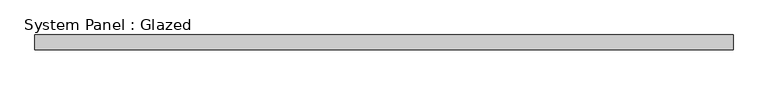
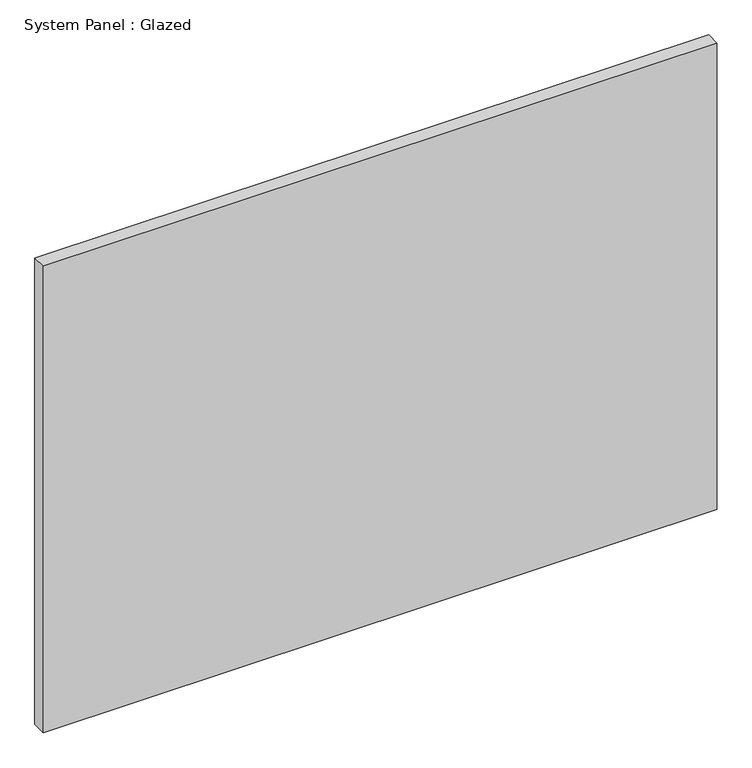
"""IFC4 building model written with IfcOpenShell, lengths in millimetres: plate geometry, System Panel : Glazed."""

from ifc_helpers import new_model, si_unit, origin, origin_with_axes, place, context, project, spatial, polyline, outline, extrude, source, transform, mapped, element, save


def system_panel_glazed_8a7cc684(model_context):
    return source(origin(), model_context, "Body", "SweptSolid", [
        extrude(outline(polyline([(594.4075643, 19.05), (-594.4075643, 19.05), (-594.4075643, 44.45), (594.4075643, 44.45), (594.4075643, 19.05)])), origin_with_axes(), (0.0, 0.0, 1.0), 869.95),
    ])


if __name__ == "__main__":
    model = new_model("IFC4")
    model_context = context("Model", 3, world=origin())
    ifc_project = project(units=[si_unit("LENGTHUNIT", "METRE", prefix="MILLI")], contexts=[model_context])
    site = spatial("IfcSite", under=ifc_project)
    building = spatial("IfcBuilding", under=site)
    placement = place(None, origin())
    system_panel_glazed_shape = system_panel_glazed_8a7cc684(model_context)
    element("IfcPlate", 1, ObjectType="System Panel : Glazed", at=placement, inside=building, context=model_context, shape_type="MappedRepresentation", body=[
        mapped(system_panel_glazed_shape, transform((0.0, 0.0, 0.0), x_axis=(1.0, 0.0, 0.0), y_axis=(0.0, 1.0, 0.0), z_axis=(0.0, 0.0, 1.0))),
    ])
    save(model, "model.ifc")
